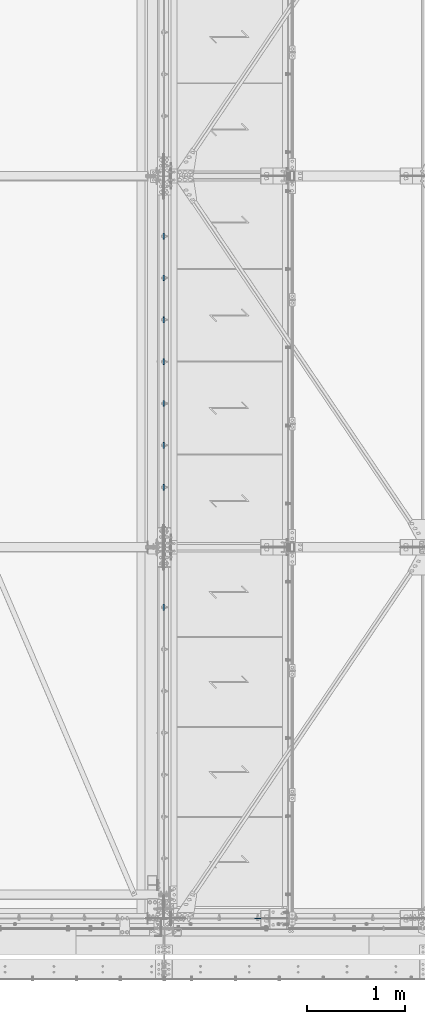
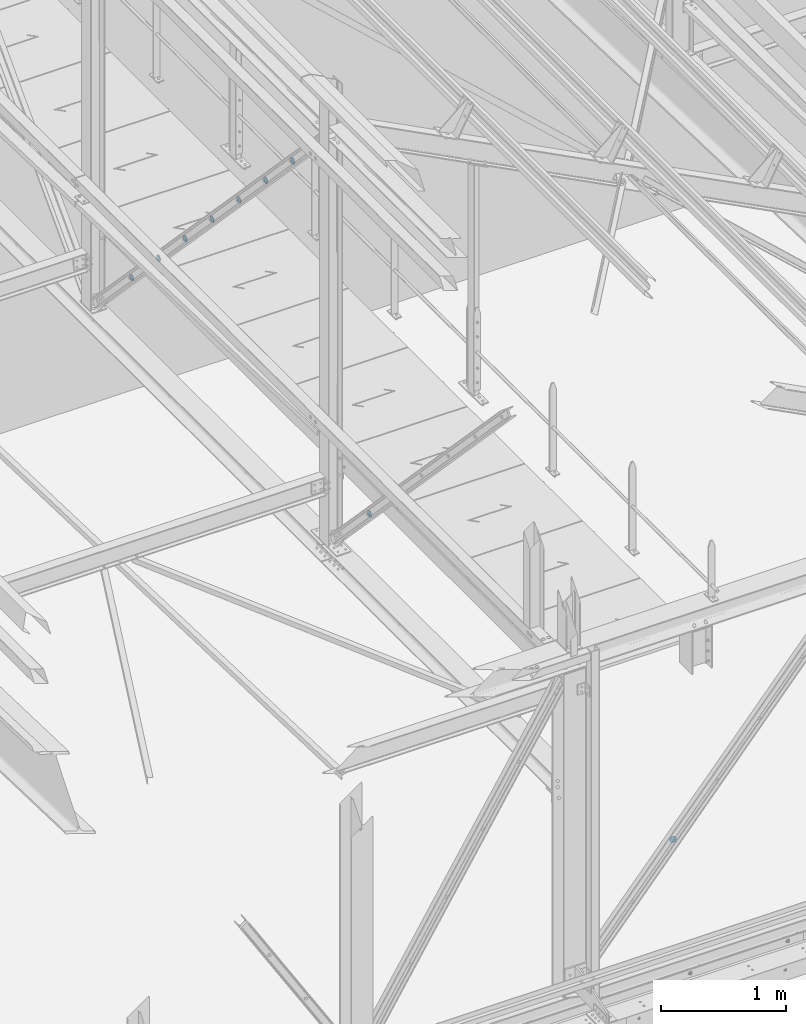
# One storey, part 121 of 362: 9 beams, 9 elements without a shape of their own.
"""IFC2X3 building model written with IfcOpenShell, lengths in millimetres."""

from ifc_helpers import new_model, si_unit, frame, frame_2d, origin_with_axes, place, context, subcontext, project, spatial, circle_curve, parameter, trimmed, segment, composite_curve, outline, extrude, material, type_object, element, aggregate, save


model = new_model("IFC2X3")

# Units and contexts
model_context = context("Model", 3, precision=1e-05, world=origin_with_axes())
body_context = subcontext(model_context, "Body", "Model", "MODEL_VIEW")
ifc_project = project(units=[si_unit("LENGTHUNIT", "METRE", prefix="MILLI"), si_unit("AREAUNIT", "SQUARE_METRE"), si_unit("VOLUMEUNIT", "CUBIC_METRE"), si_unit("MASSUNIT", "GRAM", prefix="KILO"), si_unit("TIMEUNIT", "SECOND"), si_unit("PLANEANGLEUNIT", "RADIAN"), si_unit("SOLIDANGLEUNIT", "STERADIAN"), si_unit("THERMODYNAMICTEMPERATUREUNIT", "DEGREE_CELSIUS"), si_unit("LUMINOUSINTENSITYUNIT", "LUMEN")], contexts=[model_context])

# Site, building, storey
site_placement = place(None, origin_with_axes())
site = spatial("IfcSite", under=ifc_project, at=site_placement, Name="Undefined", CompositionType="ELEMENT")
building_placement = place(site_placement, origin_with_axes())
building = spatial("IfcBuilding", under=site, at=building_placement, Name="Undefined", CompositionType="ELEMENT")
storey_placement = place(building_placement, origin_with_axes())
storey = spatial("IfcBuildingStorey", under=building, at=storey_placement, Name="Undefined", CompositionType="ELEMENT", Elevation=0.0)

# Assembly, beam
assembly_1_placement = place(storey_placement, origin_with_axes())
assembly_1 = element("IfcElementAssembly", 1, at=assembly_1_placement, inside=storey, AssemblyPlace="NOTDEFINED", PredefinedType="NOTDEFINED")
ifc_material = material(Name="Undefined/S235-E24")
beam_type = type_object("IfcBeamType", Name="TOLE8*60", PredefinedType="NOTDEFINED")
beam_1_placement = place(assembly_1_placement, frame((24460.0865289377, 0.0, 6345.12939537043), z_axis=(0.0, -1.0, 0.0), x_axis=(-1.0, 0.0, 0.0)))
beam_1 = element("IfcBeam", 2, at=beam_1_placement, type_object=beam_type, material=ifc_material, Name="PLAQUETTE", ObjectType="TOLE8*60", context=body_context, shape_type="SweptSolid", body=[
    extrude(outline(composite_curve([segment(trimmed(circle_curve(frame_2d((30.0, 30.0), x_axis=(-1.0, 0.0)), 30.0), [parameter(0.0)], [parameter(1.5707963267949)], True, "PARAMETER"), True, "CONTINUOUS"), segment(trimmed(circle_curve(frame_2d((30.0, 30.0), x_axis=(0.0, -1.0)), 30.0), [parameter(0.0)], [parameter(1.5707963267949)], True, "PARAMETER"), True, "CONTINUOUS"), segment(trimmed(circle_curve(frame_2d((30.0, 30.0), x_axis=(1.0, 0.0)), 30.0), [parameter(0.0)], [parameter(1.5707963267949)], True, "PARAMETER"), True, "CONTINUOUS"), segment(trimmed(circle_curve(frame_2d((30.0, 30.0), x_axis=(0.0, 1.0)), 30.0), [parameter(0.0)], [parameter(1.5707963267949)], True, "PARAMETER"), True, "CONTINUOUS")], self_intersect=True)), frame((0.0, 0.0, -4.0), z_axis=(0.0, 0.0, 1.0), x_axis=(1.0, 0.0, 0.0)), (0.0, 0.0, 1.0), 8.0),
])
aggregate(assembly_1, [beam_1])

assembly_2_placement = place(storey_placement, origin_with_axes())
assembly_2 = element("IfcElementAssembly", 3, at=assembly_2_placement, inside=storey, AssemblyPlace="NOTDEFINED", PredefinedType="NOTDEFINED")
beam_2_placement = place(assembly_2_placement, frame((23470.0, 3155.27219197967, 7924.81806178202), z_axis=(-1.0, 0.0, 0.0), x_axis=(0.0, 1.0, 0.0)))
beam_2 = element("IfcBeam", 4, at=beam_2_placement, type_object=beam_type, material=ifc_material, Name="PLAQUETTE", ObjectType="TOLE8*60", context=body_context, shape_type="SweptSolid", body=[
    extrude(outline(composite_curve([segment(trimmed(circle_curve(frame_2d((30.0, 30.0), x_axis=(-1.0, 0.0)), 30.0), [parameter(0.0)], [parameter(1.5707963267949)], True, "PARAMETER"), True, "CONTINUOUS"), segment(trimmed(circle_curve(frame_2d((30.0, 30.0), x_axis=(0.0, -1.0)), 30.0), [parameter(0.0)], [parameter(1.5707963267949)], True, "PARAMETER"), True, "CONTINUOUS"), segment(trimmed(circle_curve(frame_2d((30.0, 30.0), x_axis=(1.0, 0.0)), 30.0), [parameter(0.0)], [parameter(1.5707963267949)], True, "PARAMETER"), True, "CONTINUOUS"), segment(trimmed(circle_curve(frame_2d((30.0, 30.0), x_axis=(0.0, 1.0)), 30.0), [parameter(0.0)], [parameter(1.5707963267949)], True, "PARAMETER"), True, "CONTINUOUS")], self_intersect=True)), frame((0.0, 0.0, -4.0), z_axis=(0.0, 0.0, 1.0), x_axis=(1.0, 0.0, 0.0)), (0.0, 0.0, 1.0), 8.0),
])
aggregate(assembly_2, [beam_2])

assembly_3_placement = place(storey_placement, origin_with_axes())
assembly_3 = element("IfcElementAssembly", 5, at=assembly_3_placement, inside=storey, AssemblyPlace="NOTDEFINED", PredefinedType="NOTDEFINED")
beam_3_placement = place(assembly_3_placement, frame((23470.0, 4384.72861245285, 10621.1820462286), z_axis=(-1.0, 0.0, 0.0), x_axis=(0.0, 1.0, 0.0)))
beam_3 = element("IfcBeam", 6, at=beam_3_placement, type_object=beam_type, material=ifc_material, Name="PLAQUETTE", ObjectType="TOLE8*60", context=body_context, shape_type="SweptSolid", body=[
    extrude(outline(composite_curve([segment(trimmed(circle_curve(frame_2d((30.0, 30.0), x_axis=(-1.0, 0.0)), 30.0), [parameter(0.0)], [parameter(1.5707963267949)], True, "PARAMETER"), True, "CONTINUOUS"), segment(trimmed(circle_curve(frame_2d((30.0, 30.0), x_axis=(0.0, -1.0)), 30.0), [parameter(0.0)], [parameter(1.5707963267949)], True, "PARAMETER"), True, "CONTINUOUS"), segment(trimmed(circle_curve(frame_2d((30.0, 30.0), x_axis=(1.0, 0.0)), 30.0), [parameter(0.0)], [parameter(1.5707963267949)], True, "PARAMETER"), True, "CONTINUOUS"), segment(trimmed(circle_curve(frame_2d((30.0, 30.0), x_axis=(0.0, 1.0)), 30.0), [parameter(0.0)], [parameter(1.5707963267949)], True, "PARAMETER"), True, "CONTINUOUS")], self_intersect=True)), frame((0.0, 0.0, -4.0), z_axis=(0.0, 0.0, 1.0), x_axis=(1.0, 0.0, 0.0)), (0.0, 0.0, 1.0), 8.0),
])
aggregate(assembly_3, [beam_3])

assembly_4_placement = place(storey_placement, origin_with_axes())
assembly_4 = element("IfcElementAssembly", 7, at=assembly_4_placement, inside=storey, AssemblyPlace="NOTDEFINED", PredefinedType="NOTDEFINED")
beam_4_placement = place(assembly_4_placement, frame((23470.0, 4813.15240955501, 10171.7880316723), z_axis=(-1.0, 0.0, 0.0), x_axis=(0.0, 1.0, 0.0)))
beam_4 = element("IfcBeam", 8, at=beam_4_placement, type_object=beam_type, material=ifc_material, Name="PLAQUETTE", ObjectType="TOLE8*60", context=body_context, shape_type="SweptSolid", body=[
    extrude(outline(composite_curve([segment(trimmed(circle_curve(frame_2d((30.0, 30.0), x_axis=(-1.0, 0.0)), 30.0), [parameter(0.0)], [parameter(1.5707963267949)], True, "PARAMETER"), True, "CONTINUOUS"), segment(trimmed(circle_curve(frame_2d((30.0, 30.0), x_axis=(0.0, -1.0)), 30.0), [parameter(0.0)], [parameter(1.5707963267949)], True, "PARAMETER"), True, "CONTINUOUS"), segment(trimmed(circle_curve(frame_2d((30.0, 30.0), x_axis=(1.0, 0.0)), 30.0), [parameter(0.0)], [parameter(1.5707963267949)], True, "PARAMETER"), True, "CONTINUOUS"), segment(trimmed(circle_curve(frame_2d((30.0, 30.0), x_axis=(0.0, 1.0)), 30.0), [parameter(0.0)], [parameter(1.5707963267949)], True, "PARAMETER"), True, "CONTINUOUS")], self_intersect=True)), frame((0.0, 0.0, -4.0), z_axis=(0.0, 0.0, 1.0), x_axis=(1.0, 0.0, 0.0)), (0.0, 0.0, 1.0), 8.0),
])
aggregate(assembly_4, [beam_4])

assembly_5_placement = place(storey_placement, origin_with_axes())
assembly_5 = element("IfcElementAssembly", 9, at=assembly_5_placement, inside=storey, AssemblyPlace="NOTDEFINED", PredefinedType="NOTDEFINED")
beam_5_placement = place(assembly_5_placement, frame((23470.0, 5241.57620665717, 9722.39401711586), z_axis=(-1.0, 0.0, 0.0), x_axis=(0.0, 1.0, 0.0)))
beam_5 = element("IfcBeam", 10, at=beam_5_placement, type_object=beam_type, material=ifc_material, Name="PLAQUETTE", ObjectType="TOLE8*60", context=body_context, shape_type="SweptSolid", body=[
    extrude(outline(composite_curve([segment(trimmed(circle_curve(frame_2d((30.0, 30.0), x_axis=(-1.0, 0.0)), 30.0), [parameter(0.0)], [parameter(1.5707963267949)], True, "PARAMETER"), True, "CONTINUOUS"), segment(trimmed(circle_curve(frame_2d((30.0, 30.0), x_axis=(0.0, -1.0)), 30.0), [parameter(0.0)], [parameter(1.5707963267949)], True, "PARAMETER"), True, "CONTINUOUS"), segment(trimmed(circle_curve(frame_2d((30.0, 30.0), x_axis=(1.0, 0.0)), 30.0), [parameter(0.0)], [parameter(1.5707963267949)], True, "PARAMETER"), True, "CONTINUOUS"), segment(trimmed(circle_curve(frame_2d((30.0, 30.0), x_axis=(0.0, 1.0)), 30.0), [parameter(0.0)], [parameter(1.5707963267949)], True, "PARAMETER"), True, "CONTINUOUS")], self_intersect=True)), frame((0.0, 0.0, -4.0), z_axis=(0.0, 0.0, 1.0), x_axis=(1.0, 0.0, 0.0)), (0.0, 0.0, 1.0), 8.0),
])
aggregate(assembly_5, [beam_5])

assembly_6_placement = place(storey_placement, origin_with_axes())
assembly_6 = element("IfcElementAssembly", 11, at=assembly_6_placement, inside=storey, AssemblyPlace="NOTDEFINED", PredefinedType="NOTDEFINED")
beam_6_placement = place(assembly_6_placement, frame((23470.0, 5670.00000375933, 9273.00000255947), z_axis=(-1.0, 0.0, 0.0), x_axis=(0.0, 1.0, 0.0)))
beam_6 = element("IfcBeam", 12, at=beam_6_placement, type_object=beam_type, material=ifc_material, Name="PLAQUETTE", ObjectType="TOLE8*60", context=body_context, shape_type="SweptSolid", body=[
    extrude(outline(composite_curve([segment(trimmed(circle_curve(frame_2d((30.0, 30.0), x_axis=(-1.0, 0.0)), 30.0), [parameter(0.0)], [parameter(1.5707963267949)], True, "PARAMETER"), True, "CONTINUOUS"), segment(trimmed(circle_curve(frame_2d((30.0, 30.0), x_axis=(0.0, -1.0)), 30.0), [parameter(0.0)], [parameter(1.5707963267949)], True, "PARAMETER"), True, "CONTINUOUS"), segment(trimmed(circle_curve(frame_2d((30.0, 30.0), x_axis=(1.0, 0.0)), 30.0), [parameter(0.0)], [parameter(1.5707963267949)], True, "PARAMETER"), True, "CONTINUOUS"), segment(trimmed(circle_curve(frame_2d((30.0, 30.0), x_axis=(0.0, 1.0)), 30.0), [parameter(0.0)], [parameter(1.5707963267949)], True, "PARAMETER"), True, "CONTINUOUS")], self_intersect=True)), frame((0.0, 0.0, -4.0), z_axis=(0.0, 0.0, 1.0), x_axis=(1.0, 0.0, 0.0)), (0.0, 0.0, 1.0), 8.0),
])
aggregate(assembly_6, [beam_6])

assembly_7_placement = place(storey_placement, origin_with_axes())
assembly_7 = element("IfcElementAssembly", 13, at=assembly_7_placement, inside=storey, AssemblyPlace="NOTDEFINED", PredefinedType="NOTDEFINED")
beam_7_placement = place(assembly_7_placement, frame((23470.0, 6098.42380086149, 8823.60598800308), z_axis=(-1.0, 0.0, 0.0), x_axis=(0.0, 1.0, 0.0)))
beam_7 = element("IfcBeam", 14, at=beam_7_placement, type_object=beam_type, material=ifc_material, Name="PLAQUETTE", ObjectType="TOLE8*60", context=body_context, shape_type="SweptSolid", body=[
    extrude(outline(composite_curve([segment(trimmed(circle_curve(frame_2d((30.0, 30.0), x_axis=(-1.0, 0.0)), 30.0), [parameter(0.0)], [parameter(1.5707963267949)], True, "PARAMETER"), True, "CONTINUOUS"), segment(trimmed(circle_curve(frame_2d((30.0, 30.0), x_axis=(0.0, -1.0)), 30.0), [parameter(0.0)], [parameter(1.5707963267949)], True, "PARAMETER"), True, "CONTINUOUS"), segment(trimmed(circle_curve(frame_2d((30.0, 30.0), x_axis=(1.0, 0.0)), 30.0), [parameter(0.0)], [parameter(1.5707963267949)], True, "PARAMETER"), True, "CONTINUOUS"), segment(trimmed(circle_curve(frame_2d((30.0, 30.0), x_axis=(0.0, 1.0)), 30.0), [parameter(0.0)], [parameter(1.5707963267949)], True, "PARAMETER"), True, "CONTINUOUS")], self_intersect=True)), frame((0.0, 0.0, -4.0), z_axis=(0.0, 0.0, 1.0), x_axis=(1.0, 0.0, 0.0)), (0.0, 0.0, 1.0), 8.0),
])
aggregate(assembly_7, [beam_7])

assembly_8_placement = place(storey_placement, origin_with_axes())
assembly_8 = element("IfcElementAssembly", 15, at=assembly_8_placement, inside=storey, AssemblyPlace="NOTDEFINED", PredefinedType="NOTDEFINED")
beam_8_placement = place(assembly_8_placement, frame((23470.0, 6526.84759796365, 8374.21197344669), z_axis=(-1.0, 0.0, 0.0), x_axis=(0.0, 1.0, 0.0)))
beam_8 = element("IfcBeam", 16, at=beam_8_placement, type_object=beam_type, material=ifc_material, Name="PLAQUETTE", ObjectType="TOLE8*60", context=body_context, shape_type="SweptSolid", body=[
    extrude(outline(composite_curve([segment(trimmed(circle_curve(frame_2d((30.0, 30.0), x_axis=(-1.0, 0.0)), 30.0), [parameter(0.0)], [parameter(1.5707963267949)], True, "PARAMETER"), True, "CONTINUOUS"), segment(trimmed(circle_curve(frame_2d((30.0, 30.0), x_axis=(0.0, -1.0)), 30.0), [parameter(0.0)], [parameter(1.5707963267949)], True, "PARAMETER"), True, "CONTINUOUS"), segment(trimmed(circle_curve(frame_2d((30.0, 30.0), x_axis=(1.0, 0.0)), 30.0), [parameter(0.0)], [parameter(1.5707963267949)], True, "PARAMETER"), True, "CONTINUOUS"), segment(trimmed(circle_curve(frame_2d((30.0, 30.0), x_axis=(0.0, 1.0)), 30.0), [parameter(0.0)], [parameter(1.5707963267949)], True, "PARAMETER"), True, "CONTINUOUS")], self_intersect=True)), frame((0.0, 0.0, -4.0), z_axis=(0.0, 0.0, 1.0), x_axis=(1.0, 0.0, 0.0)), (0.0, 0.0, 1.0), 8.0),
])
aggregate(assembly_8, [beam_8])

assembly_9_placement = place(storey_placement, origin_with_axes())
assembly_9 = element("IfcElementAssembly", 17, at=assembly_9_placement, inside=storey, AssemblyPlace="NOTDEFINED", PredefinedType="NOTDEFINED")
beam_9_placement = place(assembly_9_placement, frame((23470.0, 6955.27139506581, 7924.8179588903), z_axis=(-1.0, 0.0, 0.0), x_axis=(0.0, 1.0, 0.0)))
beam_9 = element("IfcBeam", 18, at=beam_9_placement, type_object=beam_type, material=ifc_material, Name="PLAQUETTE", ObjectType="TOLE8*60", context=body_context, shape_type="SweptSolid", body=[
    extrude(outline(composite_curve([segment(trimmed(circle_curve(frame_2d((30.0, 30.0), x_axis=(-1.0, 0.0)), 30.0), [parameter(0.0)], [parameter(1.5707963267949)], True, "PARAMETER"), True, "CONTINUOUS"), segment(trimmed(circle_curve(frame_2d((30.0, 30.0), x_axis=(0.0, -1.0)), 30.0), [parameter(0.0)], [parameter(1.5707963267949)], True, "PARAMETER"), True, "CONTINUOUS"), segment(trimmed(circle_curve(frame_2d((30.0, 30.0), x_axis=(1.0, 0.0)), 30.0), [parameter(0.0)], [parameter(1.5707963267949)], True, "PARAMETER"), True, "CONTINUOUS"), segment(trimmed(circle_curve(frame_2d((30.0, 30.0), x_axis=(0.0, 1.0)), 30.0), [parameter(0.0)], [parameter(1.5707963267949)], True, "PARAMETER"), True, "CONTINUOUS")], self_intersect=True)), frame((0.0, 0.0, -4.0), z_axis=(0.0, 0.0, 1.0), x_axis=(1.0, 0.0, 0.0)), (0.0, 0.0, 1.0), 8.0),
])
aggregate(assembly_9, [beam_9])

save(model, "model.ifc")
